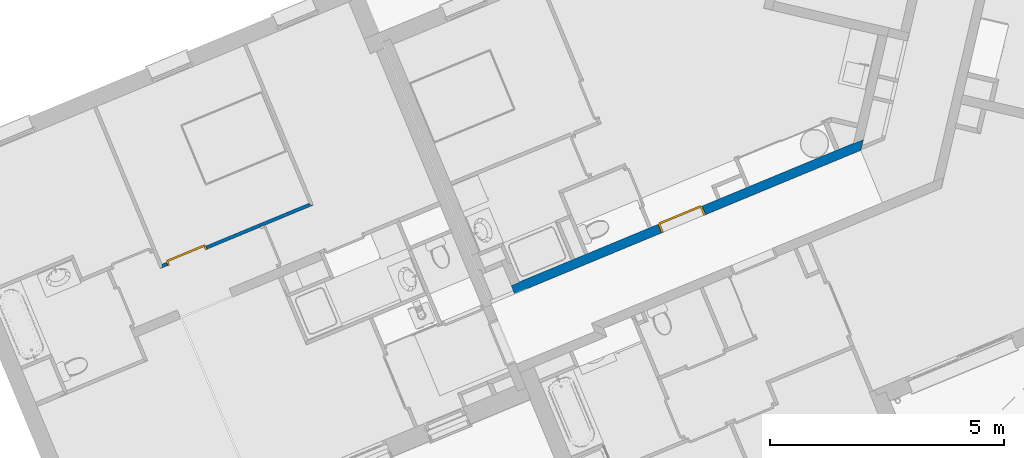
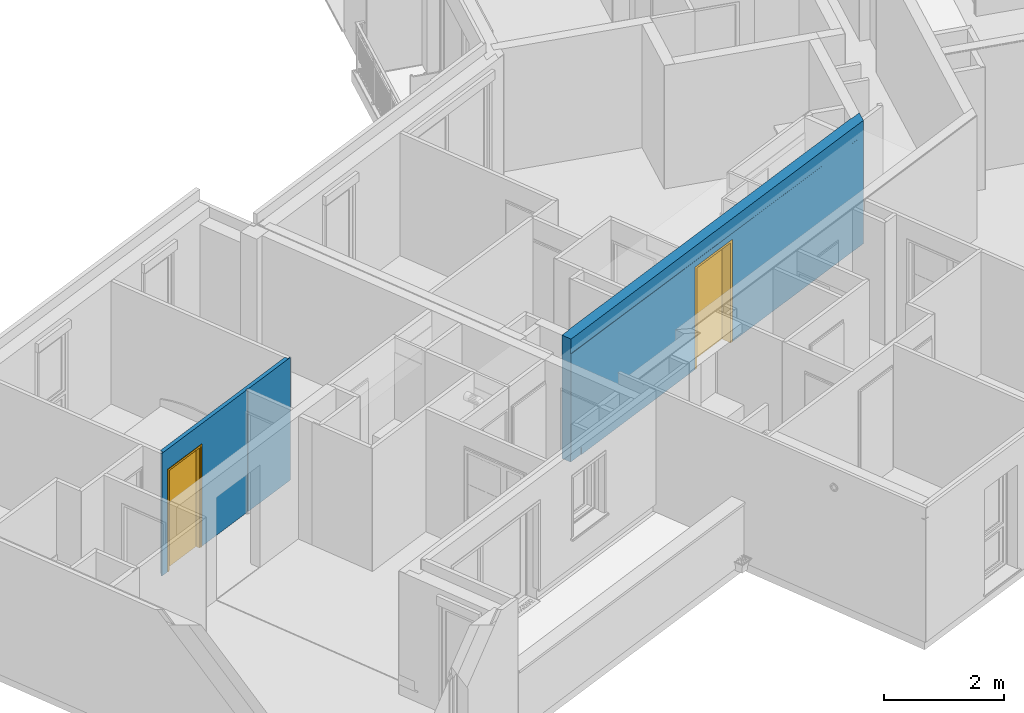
# One storey, part 8 of 91: 2 doors, 2 walls, 2 openings.
"""IFC2X3 building model written with IfcOpenShell, lengths in metres."""

import ifcopenshell
import ifcopenshell.guid

model = None  # the IFC model being written
_history = None  # IfcOwnerHistory: only IFC2X3 demands one
_inside = {}  # id of a spatial element -> (the spatial element, [elements in it])
_under = {}  # id of a project, library or spatial element -> (it, [spatial elements below it])
_declared = {}  # id of a project -> (the project, [libraries it declares])
_typed = {}  # id of a type object -> (the type object, [elements of that type])
_made_of = {}  # id of a material, layer set ... -> (it, [elements and type objects made of it])


def new_model(schema):
    """Start an empty IFC model of exactly this schema.

    Asked for "IFC4X3", IfcOpenShell would pick the latest addendum, in which some entities
    have other attributes; the version numbers below select the first issue.
    IFC2X3 requires an IfcOwnerHistory on every rooted entity: one is made here for all.
    """
    global model, _history
    if schema == "IFC4X3":
        model = ifcopenshell.file(schema_version=(4, 3, 0, 0))
    else:
        model = ifcopenshell.file(schema=schema)
    _inside.clear()
    _under.clear()
    _declared.clear()
    _typed.clear()
    _made_of.clear()
    _history = None
    if model.schema == "IFC2X3":
        org = make("IfcOrganization", Name="unknown")
        user = make(
            "IfcPersonAndOrganization",
            ThePerson=make("IfcPerson", FamilyName="unknown"),
            TheOrganization=org,
        )
        app = make(
            "IfcApplication",
            ApplicationDeveloper=org,
            Version="unknown",
            ApplicationFullName="unknown",
            ApplicationIdentifier="unknown",
        )
        _history = make(
            "IfcOwnerHistory",
            OwningUser=user,
            OwningApplication=app,
            ChangeAction="ADDED",
            CreationDate=0,
        )
    return model


def make(cls, **values):
    """One entity of the class cls with the attributes given. An attribute that is None is left unset."""
    return model.create_entity(
        cls, **{name: value for name, value in values.items() if value is not None}
    )


def entity(cls, *values):
    """Any entity or typed value of the class cls, its attributes in the order of the schema. None: left unset."""
    e = model.create_entity(cls)
    for i, value in enumerate(values):
        if value is not None:
            e[i] = value
    return e


def rooted(cls, **values):
    """An entity with a GlobalId (a new one), such as an element, a storey or a relation."""
    return make(cls, GlobalId=ifcopenshell.guid.new(), OwnerHistory=_history, **values)


def si_unit(unit_type, name, prefix=None):
    """IfcSIUnit, for example si_unit("LENGTHUNIT", "METRE", prefix="MILLI")."""
    return make("IfcSIUnit", UnitType=unit_type, Prefix=prefix, Name=name)


def converted_unit(unit_type, name, factor, base, dimensions=None, offset=None):
    """IfcConversionBasedUnit, such as the inch: factor (a typed value) times the base unit."""
    return make(
        "IfcConversionBasedUnit"
        if offset is None
        else "IfcConversionBasedUnitWithOffset",
        ConversionOffset=offset,
        Dimensions=None
        if dimensions is None
        else entity("IfcDimensionalExponents", *dimensions),
        UnitType=unit_type,
        Name=name,
        ConversionFactor=make(
            "IfcMeasureWithUnit", ValueComponent=factor, UnitComponent=base
        ),
    )


def derived_unit(unit_type, elements):
    """IfcDerivedUnit: a product of units, each with its exponent."""
    return make(
        "IfcDerivedUnit",
        Elements=[
            make("IfcDerivedUnitElement", Unit=unit, Exponent=power)
            for unit, power in elements
        ],
        UnitType=unit_type,
    )


def money_unit(currency):
    """IfcMonetaryUnit."""
    return make("IfcMonetaryUnit", Currency=currency)


def assignment(units):
    """IfcUnitAssignment: the units of a project."""
    return None if units is None else make("IfcUnitAssignment", Units=units)


def point(xyz):
    """IfcCartesianPoint."""
    return None if xyz is None else make("IfcCartesianPoint", Coordinates=xyz)


def direction(xyz):
    """IfcDirection."""
    return None if xyz is None else make("IfcDirection", DirectionRatios=xyz)


def frame(location, z_axis=None, x_axis=None):
    """IfcAxis2Placement3D, a coordinate frame: its origin and axes. An axis left out is left unset."""
    return make(
        "IfcAxis2Placement3D",
        Location=point(location),
        Axis=direction(z_axis),
        RefDirection=direction(x_axis),
    )


def origin_with_axes():
    """The frame at (0, 0, 0) with the z axis (0, 0, 1) and the x axis (1, 0, 0) written out."""
    return frame((0.0, 0.0, 0.0), z_axis=(0.0, 0.0, 1.0), x_axis=(1.0, 0.0, 0.0))


def place(relative_to, where):
    """IfcLocalPlacement: puts the frame where relative to a parent placement (None: the world)."""
    return make(
        "IfcLocalPlacement", PlacementRelTo=relative_to, RelativePlacement=where
    )


def context(
    kind, dimensions, precision=None, world=None, true_north=None, identifier=None
):
    """IfcGeometricRepresentationContext, for example the 3D "Model" context."""
    return make(
        "IfcGeometricRepresentationContext",
        ContextIdentifier=identifier,
        ContextType=kind,
        CoordinateSpaceDimension=dimensions,
        Precision=precision,
        WorldCoordinateSystem=world,
        TrueNorth=true_north,
    )


def subcontext(parent, identifier, kind, view, scale=None):
    """IfcGeometricRepresentationSubContext, for example "Body" below "Model"."""
    return make(
        "IfcGeometricRepresentationSubContext",
        ContextIdentifier=identifier,
        ContextType=kind,
        ParentContext=parent,
        TargetScale=scale,
        TargetView=view,
    )


def project(units=None, contexts=None):
    """IfcProject with its units and contexts."""
    return rooted(
        "IfcProject",
        Name="project",
        RepresentationContexts=contexts,
        UnitsInContext=assignment(units),
    )


def spatial(cls, under=None, at=None, **own):
    """A site, building, storey or space (cls), placed at a placement, below another one or the project."""
    s = rooted(cls, ObjectPlacement=at, **own)
    if under is not None:
        _under.setdefault(under.id(), (under, []))[1].append(s)
    return s


def faces_of(points, faces, orient=None, outer=None):
    """IfcFace entities. A face is a list of loops; a loop is a list of indices into points, from 0.

    orient and outer hold one flag for each loop. By default every Orientation is true, the
    first loop of a face is its IfcFaceOuterBound and the others are IfcFaceBound.
    """
    made = []
    for i, loops in enumerate(faces):
        bounds = []
        for j, loop in enumerate(loops):
            is_outer = j == 0 if outer is None else outer[i][j]
            bounds.append(
                make(
                    "IfcFaceOuterBound" if is_outer else "IfcFaceBound",
                    Bound=make("IfcPolyLoop", Polygon=[points[k] for k in loop]),
                    Orientation=True if orient is None else orient[i][j],
                )
            )
        made.append(make("IfcFace", Bounds=bounds))
    return made


def faceted_brep(points, faces, orient=None, outer=None, voids=None):
    """IfcFacetedBrep: a solid bounded by flat faces; with voids (closed shells), ...WithVoids."""
    shared = [point(p) for p in points]
    hull = make("IfcClosedShell", CfsFaces=faces_of(shared, faces, orient, outer))
    if voids is None:
        return make("IfcFacetedBrep", Outer=hull)
    return make(
        "IfcFacetedBrepWithVoids",
        Outer=hull,
        Voids=[
            make(cls, CfsFaces=faces_of(shared, fs, o, b)) for cls, fs, o, b in voids
        ],
    )


def shape(context_of_items, identifier, shape_type, items):
    """IfcShapeRepresentation: the items that make up one representation, for example the "Body"."""
    return make(
        "IfcShapeRepresentation",
        ContextOfItems=context_of_items,
        RepresentationIdentifier=identifier,
        RepresentationType=shape_type,
        Items=items,
    )


def source(mapping_origin, context_of_items, identifier, shape_type, items):
    """IfcRepresentationMap: a shape defined once, which mapped items show again and again."""
    return make(
        "IfcRepresentationMap",
        MappingOrigin=mapping_origin,
        MappedRepresentation=shape(context_of_items, identifier, shape_type, items),
    )


def transform(
    local_origin,
    x_axis=None,
    y_axis=None,
    z_axis=None,
    scale=None,
    scale2=None,
    scale3=None,
    uniform=True,
):
    """IfcCartesianTransformationOperator3D, or its non-uniform kind. x_axis, y_axis, z_axis: its Axis1, 2, 3."""
    if uniform:
        return make(
            "IfcCartesianTransformationOperator3D",
            Axis1=direction(x_axis),
            Axis2=direction(y_axis),
            LocalOrigin=point(local_origin),
            Scale=scale,
            Axis3=direction(z_axis),
        )
    return make(
        "IfcCartesianTransformationOperator3DnonUniform",
        Axis1=direction(x_axis),
        Axis2=direction(y_axis),
        LocalOrigin=point(local_origin),
        Scale=scale,
        Axis3=direction(z_axis),
        Scale2=scale2,
        Scale3=scale3,
    )


def mapped(mapping_source, mapping_target):
    """IfcMappedItem: shows the shape of a source again, moved by a transform."""
    return make(
        "IfcMappedItem", MappingSource=mapping_source, MappingTarget=mapping_target
    )


def material(Name=None, Category=None):
    """IfcMaterial."""
    return make("IfcMaterial", Name=Name, Category=Category)


def material_list(materials):
    """IfcMaterialList."""
    return make("IfcMaterialList", Materials=materials)


def made_of(thing, what):
    """Note that an element or type object is made of a material, layer set ...; save() writes the relation."""
    if what is not None:
        _made_of.setdefault(what.id(), (what, []))[1].append(thing)
    return thing


def type_object(cls, material=None, **own):
    """A type object (cls), such as IfcWallType, which elements share."""
    return made_of(rooted(cls, **own), material)


def element(
    cls,
    number,
    at=None,
    inside=None,
    cuts=None,
    type_object=None,
    material=None,
    context=None,
    identifier="Body",
    shape_type=None,
    held_by="IfcProductDefinitionShape",
    body=None,
    shapes=None,
    **own,
):
    """One element of the class cls, such as IfcWall. Its Tag is "e" and its number.

    at: its placement. inside: the storey or other place that contains it. cuts: it is an
    opening in that element (IfcRelVoidsElement). A single representation is given by context,
    identifier, shape_type and body (its items); several are given by shapes. held_by: the class
    of the entity that holds the representations. save() writes the other relations.
    """
    e = rooted(cls, Tag="e%d" % number, ObjectPlacement=at, **own)
    if body is not None:
        shapes = [shape(context, identifier, shape_type, body)]
    if shapes is not None:
        e.Representation = make(held_by, Representations=shapes)
    if inside is not None:
        _inside.setdefault(inside.id(), (inside, []))[1].append(e)
    if cuts is not None:
        rooted(
            "IfcRelVoidsElement", RelatingBuildingElement=cuts, RelatedOpeningElement=e
        )
    if type_object is not None:
        _typed.setdefault(type_object.id(), (type_object, []))[1].append(e)
    return made_of(e, material)


def fill(opening, filler):
    """IfcRelFillsElement: the door or window that sits in an opening."""
    return rooted(
        "IfcRelFillsElement",
        RelatingOpeningElement=opening,
        RelatedBuildingElement=filler,
    )


def aggregate(whole, parts):
    """IfcRelAggregates: a whole, such as a stair, and the parts it consists of."""
    return rooted("IfcRelAggregates", RelatingObject=whole, RelatedObjects=parts)


def save(model, path):
    """Write the relations noted so far, then the file.

    IfcRelAggregates (storeys below a building ...), IfcRelContainedInSpatialStructure (elements
    in a storey), IfcRelDefinesByType, IfcRelAssociatesMaterial and IfcRelDeclares: one each for
    every whole, place, type object, material and project.
    """
    for whole, parts in _under.values():
        aggregate(whole, parts)
    for where, things in _inside.values():
        rooted(
            "IfcRelContainedInSpatialStructure",
            RelatedElements=things,
            RelatingStructure=where,
        )
    for kind, things in _typed.values():
        rooted("IfcRelDefinesByType", RelatedObjects=things, RelatingType=kind)
    for what, things in _made_of.values():
        rooted("IfcRelAssociatesMaterial", RelatedObjects=things, RelatingMaterial=what)
    for by, libraries in _declared.values():
        rooted("IfcRelDeclares", RelatingContext=by, RelatedDefinitions=libraries)
    model.write(path)


model = new_model("IFC2X3")

# Units and contexts
model_context = context("Model", 3, precision=1e-05, world=origin_with_axes(), true_north=direction((0.0, 1.0)))
body_context = subcontext(model_context, "Body", "Model", "MODEL_VIEW")
ifc_project = project(units=[si_unit("LENGTHUNIT", "METRE"), si_unit("AREAUNIT", "SQUARE_METRE"), si_unit("VOLUMEUNIT", "CUBIC_METRE"), converted_unit("PLANEANGLEUNIT", "DEGREE", entity("IfcPlaneAngleMeasure", 0.0174532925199), si_unit("PLANEANGLEUNIT", "RADIAN"), dimensions=[0, 0, 0, 0, 0, 0, 0]), si_unit("SOLIDANGLEUNIT", "STERADIAN"), money_unit("EUR"), converted_unit("TIMEUNIT", "Year", entity("IfcTimeMeasure", 31556926.0), si_unit("TIMEUNIT", "SECOND"), dimensions=[0, 0, 1, 0, 0, 0, 0]), si_unit("MASSUNIT", "GRAM", prefix="KILO"), si_unit("THERMODYNAMICTEMPERATUREUNIT", "DEGREE_CELSIUS"), si_unit("LUMINOUSINTENSITYUNIT", "LUMEN"), si_unit("ENERGYUNIT", "JOULE", prefix="MEGA"), derived_unit("THERMALCONDUCTANCEUNIT", [(si_unit("POWERUNIT", "WATT"), 1), (si_unit("LENGTHUNIT", "METRE"), -1), (si_unit("THERMODYNAMICTEMPERATUREUNIT", "KELVIN"), -1)]), derived_unit("SPECIFICHEATCAPACITYUNIT", [(si_unit("ENERGYUNIT", "JOULE"), 1), (si_unit("MASSUNIT", "GRAM", prefix="KILO"), -1), (si_unit("THERMODYNAMICTEMPERATUREUNIT", "KELVIN"), -1)]), derived_unit("MASSDENSITYUNIT", [(si_unit("MASSUNIT", "GRAM", prefix="KILO"), 1), (si_unit("VOLUMEUNIT", "CUBIC_METRE"), -1)])], contexts=[model_context])

# Site, building, storey
site_placement = place(None, origin_with_axes())
site = spatial("IfcSite", under=ifc_project, at=site_placement, Name="Site", CompositionType="ELEMENT")
building_placement = place(site_placement, origin_with_axes())
building = spatial("IfcBuilding", under=site, at=building_placement, Name="Bâtiment", CompositionType="ELEMENT")
storey_placement = place(building_placement, frame((0.0, 0.0, 5.44), z_axis=(0.0, 0.0, 1.0), x_axis=(1.0, 0.0, 0.0)))
storey = spatial("IfcBuildingStorey", under=building, at=storey_placement, Name="R+2", CompositionType="ELEMENT", Elevation=5.44)

# Wall, opening, door
ifc_material_1 = material(Name="Finition int - Plaque de plâtre")
ifc_material_2 = material(Name="Isolation - Laine de roche")
ifc_material_list_1 = material_list([ifc_material_1, ifc_material_2, ifc_material_1])
wall_type_1 = type_object("IfcWallType", Name="3 - Cloison 72mm Placostil 74", PredefinedType="USERDEFINED")
wall_1_placement = place(storey_placement, frame((-27.0265748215, -18.8681428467, 0.0), z_axis=(0.0, 0.0, 1.0), x_axis=(-0.923701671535, -0.383112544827, 0.0)))
wall_1 = element("IfcWall", 1, at=wall_1_placement, inside=storey, type_object=wall_type_1, material=ifc_material_list_1, Name="Cloison Placostil 72/48", ObjectType="PARTITIONING", context=body_context, shape_type="Brep", body=[
    faceted_brep([(1.09328971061, -0.013, 2.5), (1.0932897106, 0.0, 2.5), (-0.061, 0.0, 2.5), (-0.0609999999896, -0.013, 2.5), (1.09328971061, -0.013, 0.0), (1.0932897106, 0.0, 0.0), (-0.061, 0.0, 0.0), (-0.0609999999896, -0.013, 0.0)], [[[0, 1, 2, 3]], [[1, 0, 4, 5]], [[1, 5, 6, 2]], [[7, 3, 2, 6]], [[4, 0, 3, 7]], [[5, 4, 7, 6]]]),
    faceted_brep([(3.29772155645, 0.0, 0.0), (3.29772155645, 0.0, 2.08), (2.38772155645, 0.0, 2.08), (2.38772155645, 0.0, 0.0), (1.1412897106, 0.0, 0.0), (1.1412897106, 0.0, 2.5), (3.4610000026, 0.0, 2.5), (3.4610000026, 0.0, 0.0), (3.29772155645, -0.013, 0.0), (3.29772155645, -0.013, 2.08), (2.38772155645, -0.013, 2.08), (2.38772155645, -0.013, 0.0), (1.14128971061, -0.013, 0.0), (1.14128971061, -0.013, 2.5), (3.4610000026, -0.013, 2.5), (3.4610000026, -0.013, 0.0)], [[[0, 1, 2, 3, 4, 5, 6, 7]], [[1, 0, 8, 9]], [[2, 1, 9, 10]], [[3, 2, 10, 11]], [[3, 11, 12, 4]], [[13, 5, 4, 12]], [[6, 5, 13, 14]], [[14, 15, 7, 6]], [[8, 0, 7, 15]], [[9, 8, 15, 14, 13, 12, 11, 10]]]),
    faceted_brep([(3.29772155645, -0.013, 0.0), (3.29772155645, -0.013, 2.08), (2.38772155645, -0.013, 2.08), (2.38772155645, -0.013, 0.0), (-0.0129999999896, -0.013, 0.0), (-0.0129999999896, -0.013, 2.5), (3.4130000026, -0.013, 2.5), (3.4130000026, -0.013, 0.0), (3.29772155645, -0.061, 0.0), (3.29772155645, -0.061, 2.08), (2.38772155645, -0.061, 2.08), (2.38772155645, -0.061, 0.0), (-0.0129999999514, -0.061, 0.0), (-0.0129999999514, -0.061, 2.5), (3.41300000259, -0.061, 2.5), (3.41300000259, -0.061, 0.0)], [[[0, 1, 2, 3, 4, 5, 6, 7]], [[1, 0, 8, 9]], [[2, 1, 9, 10]], [[3, 2, 10, 11]], [[3, 11, 12, 4]], [[13, 5, 4, 12]], [[6, 5, 13, 14]], [[14, 15, 7, 6]], [[8, 0, 7, 15]], [[9, 8, 15, 14, 13, 12, 11, 10]]]),
    faceted_brep([(3.29772155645, -0.061, 0.0), (3.29772155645, -0.061, 2.08), (2.38772155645, -0.061, 2.08), (2.38772155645, -0.061, 0.0), (0.0, -0.061, 0.0), (0.0, -0.061, 2.5), (3.40000000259, -0.061, 2.5), (3.40000000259, -0.061, 0.0), (3.29772155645, -0.074, 0.0), (3.29772155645, -0.074, 2.08), (2.38772155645, -0.074, 2.08), (2.38772155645, -0.074, 0.0), (0.0, -0.074, 0.0), (0.0, -0.074, 2.5), (3.40000000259, -0.074, 2.5), (3.40000000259, -0.074, 0.0)], [[[0, 1, 2, 3, 4, 5, 6, 7]], [[1, 0, 8, 9]], [[2, 1, 9, 10]], [[3, 2, 10, 11]], [[3, 11, 12, 4]], [[13, 5, 4, 12]], [[6, 5, 13, 14]], [[14, 15, 7, 6]], [[8, 0, 7, 15]], [[9, 8, 15, 14, 13, 12, 11, 10]]]),
])
opening_1_placement = place(wall_1_placement, frame((2.84272155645, 0.0, 0.0), z_axis=(0.0, 0.0, 1.0), x_axis=(1.0, 0.0, 0.0)))
opening_1 = element("IfcOpeningElement", 2, at=opening_1_placement, cuts=wall_1, Name="Porte 83x204 bois alvéolaire", context=body_context, shape_type="Brep", body=[
    faceted_brep([(0.455, -0.074, 0.0), (-0.455, -0.074, 0.0), (-0.455, 0.074, 0.0), (0.455, 0.074, 0.0), (0.455, -0.074, 2.08), (-0.455, -0.074, 2.08), (-0.455, 0.074, 2.08), (0.455, 0.074, 2.08)], [[[0, 1, 2, 3]], [[0, 4, 5, 1]], [[1, 5, 6, 2]], [[3, 2, 6, 7]], [[4, 0, 3, 7]], [[5, 4, 7, 6]]]),
])
door_style_1 = type_object("IfcDoorStyle", Name="Porte int générique 2019", ConstructionType="NOTDEFINED", OperationType="SINGLE_SWING_LEFT", ParameterTakesPrecedence=False, Sizeable=False)
shared_shape_1 = source(origin_with_axes(), body_context, "Body", "Brep", [
    faceted_brep([(-0.455, -0.006, 0.0), (-0.455, -0.006, 2.08), (0.455, -0.006, 2.08), (0.455, -0.006, 0.0), (0.415, -0.006, 0.0), (0.415, -0.006, 2.04), (-0.415, -0.006, 2.04), (-0.415, -0.006, 0.0), (-0.455, -0.08, 0.0), (-0.455, -0.08, 2.08), (0.455, -0.08, 2.08), (0.455, -0.08, 0.0), (0.415, -0.08, 0.0), (0.415, -0.08, 2.04), (-0.415, -0.08, 2.04), (-0.415, -0.08, 0.0)], [[[0, 1, 2, 3, 4, 5, 6, 7]], [[8, 9, 1, 0]], [[9, 10, 2, 1]], [[10, 11, 3, 2]], [[3, 11, 12, 4]], [[5, 4, 12, 13]], [[6, 5, 13, 14]], [[7, 6, 14, 15]], [[0, 7, 15, 8]], [[15, 14, 13, 12, 11, 10, 9, 8]]]),
    faceted_brep([(-0.465, -0.006, 0.0), (-0.465, -0.006, 2.09), (-0.465, 0.004, 2.09), (-0.465, 0.004, 0.0), (-0.435, -0.006, 0.0), (-0.435, -0.006, 2.06), (0.435, -0.006, 2.06), (0.435, -0.006, 0.0), (0.465, -0.006, 0.0), (0.465, -0.006, 2.09), (0.465, 0.004, 2.09), (0.465, 0.004, 0.0), (0.435, 0.004, 0.0), (0.435, 0.004, 2.06), (-0.435, 0.004, 2.06), (-0.435, 0.004, 0.0)], [[[0, 1, 2, 3]], [[4, 5, 6, 7, 8, 9, 1, 0]], [[1, 9, 10, 2]], [[3, 2, 10, 11, 12, 13, 14, 15]], [[0, 3, 15, 4]], [[15, 14, 5, 4]], [[14, 13, 6, 5]], [[13, 12, 7, 6]], [[8, 7, 12, 11]], [[9, 8, 11, 10]]]),
    faceted_brep([(-0.465, -0.09, 0.0), (-0.465, -0.09, 2.09), (-0.465, -0.08, 2.09), (-0.465, -0.08, 0.0), (-0.435, -0.09, 0.0), (-0.435, -0.09, 2.06), (0.435, -0.09, 2.06), (0.435, -0.09, 0.0), (0.465, -0.09, 0.0), (0.465, -0.09, 2.09), (0.465, -0.08, 2.09), (0.465, -0.08, 0.0), (0.435, -0.08, 0.0), (0.435, -0.08, 2.06), (-0.435, -0.08, 2.06), (-0.435, -0.08, 0.0)], [[[0, 1, 2, 3]], [[4, 5, 6, 7, 8, 9, 1, 0]], [[1, 9, 10, 2]], [[3, 2, 10, 11, 12, 13, 14, 15]], [[0, 3, 15, 4]], [[15, 14, 5, 4]], [[14, 13, 6, 5]], [[13, 12, 7, 6]], [[8, 7, 12, 11]], [[9, 8, 11, 10]]]),
    faceted_brep([(-0.435, 0.034, 0.0), (0.435, 0.034, 0.0), (0.435, -0.006, 0.0), (-0.435, -0.006, 0.0), (-0.435, 0.034, 2.06), (0.435, 0.034, 2.06), (0.435, -0.006, 2.06), (-0.435, -0.006, 2.06)], [[[0, 1, 2, 3]], [[0, 4, 5, 1]], [[1, 5, 6, 2]], [[3, 2, 6, 7]], [[4, 0, 3, 7]], [[5, 4, 7, 6]]]),
])
door_1_placement = place(opening_1_placement, frame((0.415, 0.0, 0.0), z_axis=(0.0, 0.0, 1.0), x_axis=(-1.0, 0.0, 0.0)))
door_1 = element("IfcDoor", 3, at=door_1_placement, inside=storey, type_object=door_style_1, Name="Porte 83x204 bois alvéolaire", ObjectType="DOOR", OverallHeight=2.04, OverallWidth=0.83, context=body_context, shape_type="MappedRepresentation", body=[
    mapped(shared_shape_1, transform((0.415, 0.08, 0.0))),
])
fill(opening_1, door_1)

ifc_material_3 = material(Name="Finition int - Enduit plâtre")
ifc_material_4 = material(Name="Béton")
ifc_material_list_2 = material_list([ifc_material_3, ifc_material_4, ifc_material_3])
wall_type_2 = type_object("IfcWallType", Name="2 - Murs Béton 18 + Enduit 2 Faces 200", PredefinedType="USERDEFINED")
wall_2_placement = place(storey_placement, frame((-22.6606031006, -20.7304905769, 0.0), z_axis=(0.0, 0.0, 1.0), x_axis=(0.923701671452, 0.383112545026, 0.0)))
wall_2 = element("IfcWall", 4, at=wall_2_placement, inside=storey, type_object=wall_type_2, material=ifc_material_list_2, Name="M_Ext-008", ObjectType="SOLIDWALL", context=body_context, shape_type="Brep", body=[
    faceted_brep([(3.40263340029, 0.18, 0.0), (3.40263340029, 0.18, 2.085), (4.42263340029, 0.18, 2.085), (4.42263340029, 0.18, 0.0), (7.93203782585, 0.18, 0.0), (7.93203782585, 0.18, 2.51), (0.180000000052, 0.18, 2.51), (0.180000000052, 0.18, 0.0), (3.40263340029, 0.19, 0.0), (3.40263340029, 0.19, 2.085), (4.42263340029, 0.19, 2.085), (4.42263340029, 0.19, 0.0), (7.93917660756, 0.19, 0.0), (7.93917660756, 0.19, 2.51), (0.180000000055, 0.19, 2.51), (0.180000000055, 0.19, 0.0)], [[[0, 1, 2, 3, 4, 5, 6, 7]], [[1, 0, 8, 9]], [[2, 1, 9, 10]], [[3, 2, 10, 11]], [[3, 11, 12, 4]], [[4, 12, 13, 5]], [[14, 6, 5, 13]], [[15, 7, 6, 14]], [[8, 0, 7, 15]], [[9, 8, 15, 14, 13, 12, 11, 10]]]),
    faceted_brep([(3.40263340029, 0.0, 0.0), (3.40263340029, 0.0, 2.085), (4.42263340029, 0.0, 2.085), (4.42263340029, 0.0, 0.0), (8.02469978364, 0.0, 0.0), (8.02469978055, -4.32893010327e-09, 2.5), (8.02469977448, 0.0, 2.5099999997), (0.0, 0.0, 2.51), (0.0, 0.0, 0.150000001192), (0.0, 0.0, 0.0), (3.40263340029, 0.18, 0.0), (3.40263340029, 0.179999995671, 2.085), (4.42263340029, 0.179999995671, 2.085), (4.42263340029, 0.18, 0.0), (8.15319785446, 0.18, 0.0), (8.15319785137, 0.179999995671, 2.5), (8.15319784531, 0.18, 2.5099999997), (0.0, 0.18, 2.51), (0.0, 0.18, 0.150000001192), (0.0, 0.18, 0.0)], [[[0, 1, 2, 3, 4, 5, 6, 7, 8, 9]], [[1, 0, 10, 11]], [[2, 1, 11, 12]], [[3, 2, 12, 13]], [[3, 13, 14, 4]], [[4, 14, 15, 5]], [[6, 5, 15, 16]], [[16, 17, 7, 6]], [[17, 18, 8, 7]], [[19, 9, 8, 18]], [[10, 0, 9, 19]], [[11, 10, 19, 18, 17, 16, 15, 14, 13, 12]]]),
    faceted_brep([(3.40263340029, -0.00999999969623, 0.0), (3.40263340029, -0.00999406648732, 2.085), (4.42263340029, -0.00999406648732, 2.085), (4.42263340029, -0.00999999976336, 0.0), (8.01756100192, -0.01, 0.0), (8.01756099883, -0.0100000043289, 2.5), (8.01756099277, -0.01, 2.5099999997), (0.0, -0.01, 2.51), (0.0, -0.00999999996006, 2.32), (8.01241309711, -0.00999406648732, 2.32), (8.01241309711, -0.00999406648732, 2.207), (0.0, -0.00999999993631, 2.207), (0.0, -0.00999999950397, 0.15), (0.290000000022, -0.00999999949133, 0.15), (0.290000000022, -0.00999999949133, 0.0), (3.40263340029, 0.0, 0.0), (3.40263340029, 0.0, 2.085), (4.42263340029, 0.0, 2.085), (4.42263340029, 0.0, 0.0), (8.02469978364, 0.0, 0.0), (8.02469978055, -4.32893010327e-09, 2.5), (8.02469977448, 0.0, 2.5099999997), (0.0, 0.0, 2.51), (0.0, -0.000636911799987, 2.207), (0.0, -0.000636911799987, 2.32), (0.0, 0.0, 0.15), (0.290000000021, 0.0, 0.15), (0.290000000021, 0.0, 0.0)], [[[0, 1, 2, 3, 4, 5, 6, 7, 8, 9, 10, 11, 12, 13, 14]], [[1, 0, 15, 16]], [[2, 1, 16, 17]], [[3, 2, 17, 18]], [[3, 18, 19, 4]], [[4, 19, 20, 5]], [[6, 5, 20, 21]], [[21, 22, 7, 6]], [[11, 23, 24, 8, 7, 22, 25, 12]], [[9, 8, 24]], [[24, 23, 10, 9]], [[11, 10, 23]], [[13, 12, 25, 26]], [[14, 13, 26, 27]], [[15, 0, 14, 27]], [[16, 15, 27, 26, 25, 22, 21, 20, 19, 18, 17]]]),
])
opening_2_placement = place(wall_2_placement, frame((3.91263340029, 0.0, 0.0), z_axis=(0.0, 0.0, 1.0), x_axis=(1.0, 0.0, 0.0)))
opening_2 = element("IfcOpeningElement", 5, at=opening_2_placement, cuts=wall_2, Name="Porte 93x204 bois blindée", context=body_context, shape_type="Brep", body=[
    faceted_brep([(-0.51, 0.2, 0.0), (0.51, 0.2, 0.0), (0.51, -0.2, 0.0), (-0.51, -0.2, 0.0), (-0.51, 0.2, 2.085), (0.51, 0.2, 2.085), (0.51, -0.2, 2.085), (-0.51, -0.2, 2.085)], [[[0, 1, 2, 3]], [[0, 4, 5, 1]], [[1, 5, 6, 2]], [[3, 2, 6, 7]], [[4, 0, 3, 7]], [[5, 4, 7, 6]]]),
])
door_style_2 = type_object("IfcDoorStyle", Name="Porte int générique 2019", ConstructionType="NOTDEFINED", OperationType="SINGLE_SWING_LEFT", ParameterTakesPrecedence=False, Sizeable=False)
shared_shape_2 = source(origin_with_axes(), body_context, "Body", "Brep", [
    faceted_brep([(-0.51, 0.0, 0.0), (-0.51, 0.0, 2.085), (0.51, 0.0, 2.085), (0.51, 0.0, 0.0), (0.48, 0.0, 0.0), (0.48, 0.0, 2.055), (-0.48, 0.0, 2.055), (-0.48, 0.0, 0.0), (-0.51, -0.2, 0.0), (-0.51, -0.2, 2.085), (0.51, -0.2, 2.085), (0.51, -0.2, 0.0), (0.465, -0.2, 0.0), (0.465, -0.015, 0.0), (0.48, -0.015, 0.0), (0.48, -0.015, 2.055), (-0.48, -0.015, 2.055), (-0.48, -0.015, 0.0), (-0.465, -0.015, 0.0), (-0.465, -0.2, 0.0), (-0.465, -0.2, 2.04), (0.465, -0.2, 2.04), (0.465, -0.015, 2.04), (-0.465, -0.015, 2.04)], [[[0, 1, 2, 3, 4, 5, 6, 7]], [[8, 9, 1, 0]], [[9, 10, 2, 1]], [[10, 11, 3, 2]], [[3, 11, 12, 13, 14, 4]], [[5, 4, 14, 15]], [[6, 5, 15, 16]], [[7, 6, 16, 17]], [[0, 7, 17, 18, 19, 8]], [[19, 20, 21, 12, 11, 10, 9, 8]], [[22, 13, 12, 21]], [[17, 16, 15, 14, 13, 22, 23, 18]], [[18, 23, 20, 19]], [[23, 22, 21, 20]]]),
    faceted_brep([(-0.48, 0.025, 0.0), (0.48, 0.025, 0.0), (0.48, -0.015, 0.0), (-0.48, -0.015, 0.0), (-0.48, 0.025, 2.055), (0.48, 0.025, 2.055), (0.48, -0.015, 2.055), (-0.48, -0.015, 2.055)], [[[0, 1, 2, 3]], [[0, 4, 5, 1]], [[1, 5, 6, 2]], [[3, 2, 6, 7]], [[4, 0, 3, 7]], [[5, 4, 7, 6]]]),
])
door_2_placement = place(opening_2_placement, frame((-0.465, 0.0, 0.0), z_axis=(0.0, 0.0, 1.0), x_axis=(1.0, 0.0, 0.0)))
door_2 = element("IfcDoor", 6, at=door_2_placement, inside=storey, type_object=door_style_2, Name="Porte 93x204 bois blindée", ObjectType="DOOR", OverallHeight=2.04, OverallWidth=0.93, context=body_context, shape_type="MappedRepresentation", body=[
    mapped(shared_shape_2, transform((0.465, 0.19, 0.0))),
])
fill(opening_2, door_2)

save(model, "model.ifc")
